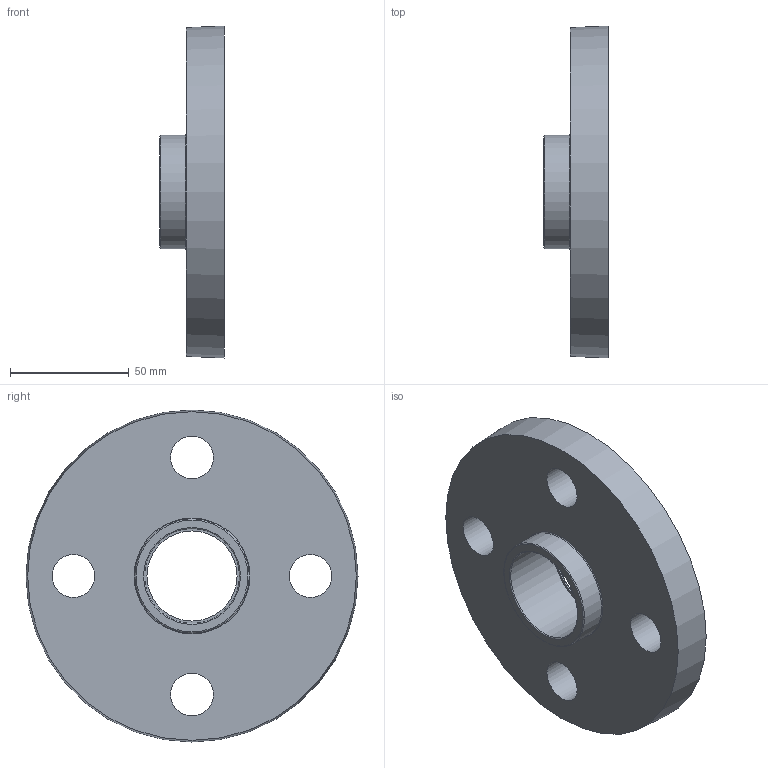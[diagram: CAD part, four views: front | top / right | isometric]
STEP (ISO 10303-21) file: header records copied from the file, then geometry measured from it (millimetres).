
FILE_DESCRIPTION(/* description */ ('PLASSON FIXED FLANGE-CEM PVC 40'),/* implementation_level */ '2;1');
FILE_NAME(/* name */ 'C:\Dropbox\KIMPROJECTS-Inventor\99-16-3568-Processing\PVC Catalog 2017\26_09_18\059200\059200040.ipt.stp',/* time_stamp */ '2018-09-27T11:51:29+03:00',/* author */ ('KIM'),/* organization */ (''),/* preprocessor_version */ 'ST-DEVELOPER v15.6',/* originating_system */ 'Autodesk Inventor 2015',/* authorisation */ '');
FILE_SCHEMA (('AUTOMOTIVE_DESIGN { 1 0 10303 214 3 1 1 }'));
Length unit declared in the file: millimetre
Products named in the file (1): 059200040
Bounding box: 27 x 140 x 140 mm (x, y, z)
Volume: 213569.4 mm3; surface area: 41987.4 mm2
Topology: 1 solids, 1 shells, 28 faces, 50 edges, 32 vertices
Faces by surface type: cylinder 13, plane 10, torus 4, cone 1
Full cylindrical faces by diameter (mm): 18 x4, 38 x1, 40 x1, 40.2 x1, 41.6 x1, 43 x1, 44.4 x1, 45.8 x1, 47.2 x1, 48 x1
Entity records: 648 total; most frequent: DIRECTION 122, CARTESIAN_POINT 93, EDGE_LOOP 64, ORIENTED_EDGE 64, AXIS2_PLACEMENT_3D 61, FACE_BOUND 36, CIRCLE 32, VERTEX_POINT 32
